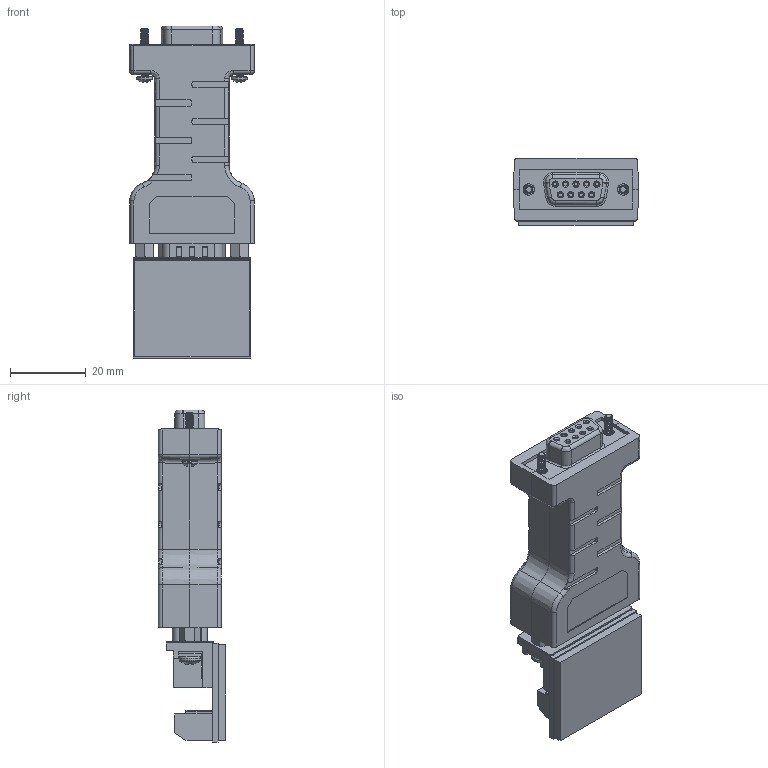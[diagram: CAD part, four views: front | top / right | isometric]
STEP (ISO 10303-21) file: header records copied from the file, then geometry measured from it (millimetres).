
FILE_DESCRIPTION(/* description */ (''),/* implementation_level */ '2;1');
FILE_NAME(/* name */ 'C:/Users/Leo/Desktop/AA CoolGear CADs/GM-1010-B/GM-1005A-B Model3D LPV1.step',/* time_stamp */ '2021-08-25T15:46:04-04:00',/* author */ (''),/* organization */ (''),/* preprocessor_version */ 'ST-DEVELOPER v18.1',/* originating_system */ 'Autodesk Translation Framework v10.9.0.1377',/* authorisation */ '');
FILE_SCHEMA (('AUTOMOTIVE_DESIGN { 1 0 10303 214 3 1 1 }'));
Products named in the file (3): GM-1010-B; Component13; Component14 (1)
Assembly tree (2 placements, depth 2):
  GM-1010-B
    Component13
    Component14 (1)
Bounding box: 33 x 17.84 x 87.9 mm (x, y, z)
Volume: 15951.5 mm3; surface area: 23863.6 mm2
Topology: 15 solids, 16 shells, 2000 faces, 5321 edges, 3380 vertices
Faces by surface type: plane 974, cylinder 777, cone 86, torus 68, bspline 64, sphere 31
Full cylindrical faces by diameter (mm): 0.9 x18, 1 x31, 1.05 x9, 1.2 x9, 1.5 x9, 1.59 x2, 1.595 x74, 1.98 x9, 2 x9, 2.02 x28, 2.184 x70, 2.684 x1, 2.715 x1, 2.845 x24, 3 x6, 3.2 x4, 3.5 x4, 3.8 x4, 4.242 x2, 4.4 x4, 5.563 x2
Entity records: 86717 total; most frequent: CARTESIAN_POINT 38099, ORIENTED_EDGE 10528, DIRECTION 9580, EDGE_CURVE 5264, VERTEX_POINT 3380, AXIS2_PLACEMENT_3D 3259, LINE 3062, VECTOR 3062
